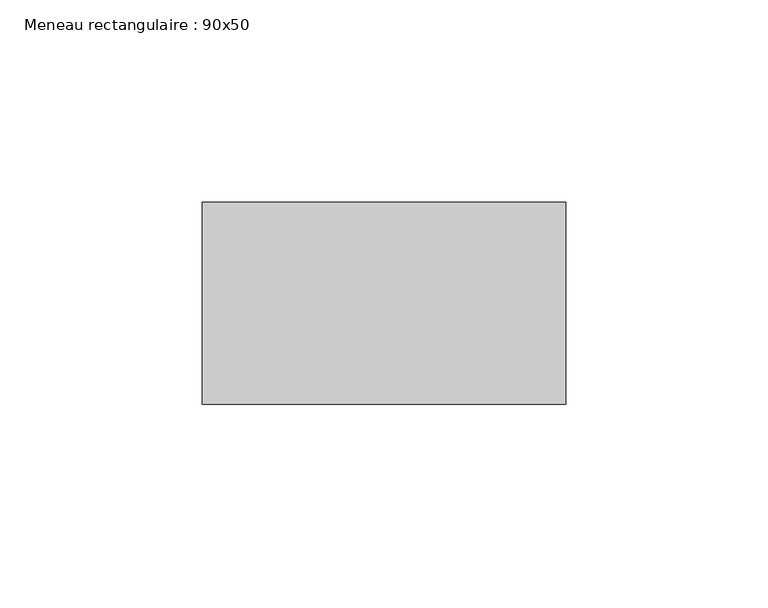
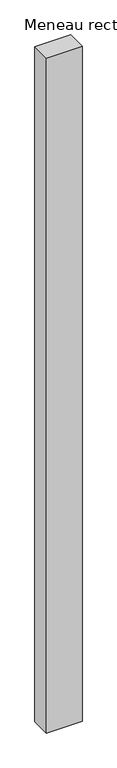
"""IFC4 building model written with IfcOpenShell, lengths in millimetres: member geometry, Meneau rectangulaire : 90x50."""

from ifc_helpers import new_model, si_unit, frame, origin, place, context, project, spatial, polyline, outline, extrude, source, transform, mapped, element, save


def meneau_rectangulaire_90x50_a7dbca75(model_context):
    return source(origin(), model_context, "Body", "SweptSolid", [
        extrude(outline(polyline([(0.0, 0.0), (0.0, -50.0), (-90.0, -50.0), (-90.0, 0.0), (0.0, 0.0)])), frame((0.0, 0.0, -1799.9936468), z_axis=(0.0, 0.0, 1.0), x_axis=(1.0, 0.0, 0.0)), (0.0, 0.0, 1.0), 1799.9936468),
    ])


if __name__ == "__main__":
    model = new_model("IFC4")
    model_context = context("Model", 3, world=origin())
    ifc_project = project(units=[si_unit("LENGTHUNIT", "METRE", prefix="MILLI")], contexts=[model_context])
    site = spatial("IfcSite", under=ifc_project)
    building = spatial("IfcBuilding", under=site)
    placement = place(None, origin())
    meneau_rectangulaire_90x50_shape = meneau_rectangulaire_90x50_a7dbca75(model_context)
    element("IfcMember", 1, ObjectType="Meneau rectangulaire : 90x50", at=placement, inside=building, context=model_context, shape_type="MappedRepresentation", body=[
        mapped(meneau_rectangulaire_90x50_shape, transform((0.0, 0.0, 0.0), x_axis=(1.0, 0.0, 0.0), y_axis=(0.0, 1.0, 0.0), z_axis=(0.0, 0.0, 1.0))),
    ])
    save(model, "model.ifc")
